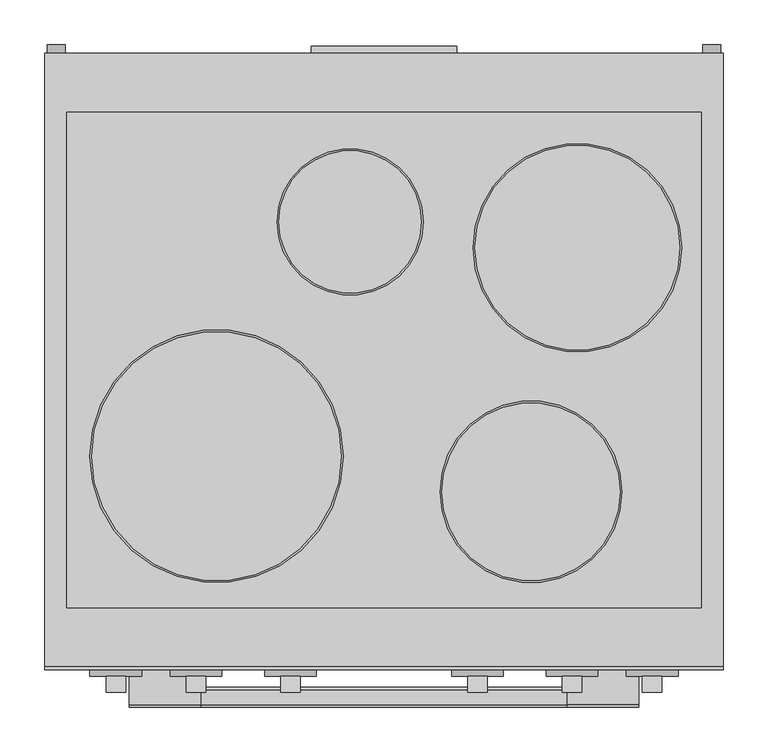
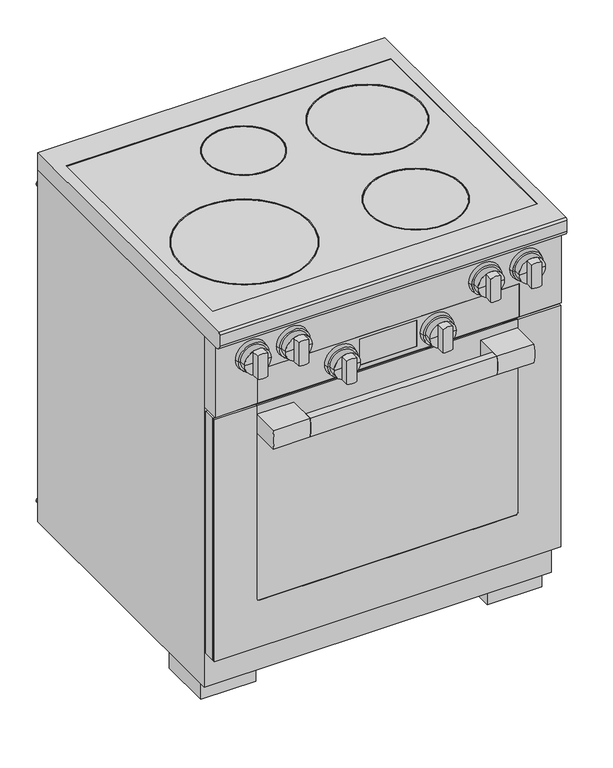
"""IFC4 building model written with IfcOpenShell, lengths in millimetres: proxy geometry, 12298850_USA_HR1422-3_EDST-CLST : 25142281_USA_12298850_HR1422-3_EDST-CLST."""

from ifc_helpers import new_model, si_unit, point, frame, frame_2d, origin, origin_with_axes, place, context, project, spatial, polyline, circle_curve, trimmed, segment, composite_curve, outline, extrude, faceted_brep, source, transform, mapped, element, save
from ifc_brep_helpers import plane_surface, cylinder_surface, revolved_surface, advanced_brep


def specialty_equipment_8ac4c8d8(model_context):
    return source(origin(), model_context, "Body", "SolidModel", [
        extrude(outline(composite_curve([segment(polyline([(-714.0, 624.0), (-731.0, 624.0)]), True, "CONTINUOUS"), segment(trimmed(circle_curve(frame_2d((-655.4583333, 645.5)), 78.5416667), [point((-731.0, 624.0))], [point((-731.0, 667.0))], False, "CARTESIAN"), True, "CONTINUOUS"), segment(polyline([(-731.0, 667.0), (-714.0, 667.0)]), True, "CONTINUOUS"), segment(trimmed(circle_curve(frame_2d((-789.5416667, 645.5)), 78.5416667), [point((-714.0, 667.0))], [point((-714.0, 624.0))], False, "CARTESIAN"), True, "CONTINUOUS")], self_intersect=False)), frame((-205.0, 0.0, 0.0), z_axis=(1.0, 0.0, 0.0), x_axis=(0.0, 1.0, 0.0)), (0.0, 0.0, 1.0), 410.0),
        extrude(outline(composite_curve([segment(polyline([(-731.0, 667.0), (-668.7, 667.0), (-668.7, 624.0), (-731.0, 624.0)]), True, "CONTINUOUS"), segment(trimmed(circle_curve(frame_2d((-655.4583333, 645.5)), 78.5416667), [point((-731.0, 624.0))], [point((-731.0, 667.0))], False, "CARTESIAN"), True, "CONTINUOUS")], self_intersect=False)), frame((205.0, 0.0, 0.0), z_axis=(1.0, 0.0, 0.0), x_axis=(0.0, 1.0, 0.0)), (0.0, 0.0, 1.0), 81.0),
        extrude(outline(composite_curve([segment(polyline([(-668.7, 667.0), (-668.7, 624.0), (-731.0, 624.0)]), True, "CONTINUOUS"), segment(trimmed(circle_curve(frame_2d((-655.4583333, 645.5)), 78.5416667), [point((-731.0, 624.0))], [point((-731.0, 667.0))], False, "CARTESIAN"), True, "CONTINUOUS"), segment(polyline([(-731.0, 667.0), (-668.7, 667.0)]), True, "CONTINUOUS")], self_intersect=False)), frame((-286.0, 0.0, 0.0), z_axis=(1.0, 0.0, 0.0), x_axis=(0.0, 1.0, 0.0)), (0.0, 0.0, 1.0), 81.0),
        extrude(outline(polyline([(-380.0, -638.0), (380.0, -638.0), (380.0, -664.7), (-380.0, -664.7), (-380.0, -638.0)])), frame((0.0, 0.0, 127.0), z_axis=(0.0, 0.0, 1.0), x_axis=(1.0, 0.0, 0.0)), (0.0, 0.0, 1.0), 561.0),
        extrude(outline(polyline([(-379.0, -664.7), (379.0, -664.7), (379.0, -668.7), (-379.0, -668.7), (-379.0, -664.7)])), frame((0.0, 0.0, 128.0), z_axis=(0.0, 0.0, 1.0), x_axis=(1.0, 0.0, 0.0)), (0.0, 0.0, 1.0), 559.0),
        advanced_brep(
        [(287.0, -664.7, 688.0), (380.0, -664.7, 688.0), (380.0, -664.7, 127.0), (-380.0, -664.7, 127.0), (-380.0, -664.7, 688.0), (-287.0, -664.7, 688.0), (-287.0, -664.7, 687.0), (-379.0, -664.7, 687.0), (-379.0, -664.7, 128.0), (379.0, -664.7, 128.0), (379.0, -664.7, 687.0), (287.0, -664.7, 687.0), (-287.0, -670.0, 688.0), (-380.0, -670.0, 688.0), (-380.0, -670.0, 127.0), (380.0, -670.0, 127.0), (380.0, -670.0, 688.0), (287.0, -670.0, 688.0), (287.0, -670.0, 241.0), (281.0, -670.0, 235.0), (-281.0, -670.0, 235.0), (-287.0, -670.0, 241.0), (-287.0, -668.7, 241.0), (-287.0, -668.7, 687.0), (281.0, -668.7, 235.0), (-281.0, -668.7, 235.0), (287.0, -668.7, 687.0), (287.0, -668.7, 241.0), (379.0, -668.7, 687.0), (379.0, -668.7, 128.0), (-379.0, -668.7, 128.0), (-379.0, -668.7, 687.0)],
        [
            (0, 1),
            (1, 2),
            (2, 3),
            (3, 4),
            (4, 5),
            (5, 6),
            (6, 7),
            (7, 8),
            (8, 9),
            (9, 10),
            (10, 11),
            (11, 0),
            (12, 13),
            (13, 14),
            (14, 15),
            (15, 16),
            (16, 17),
            (17, 18),
            (18, 19, circle_curve(frame((281.0, -670.0, 241.0), z_axis=(0.0, 1.0, 0.0), x_axis=(-1.0, 0.0, 0.0)), 6.0)),
            (19, 20),
            (20, 21, circle_curve(frame((-281.0, -670.0, 241.0), z_axis=(0.0, 1.0, 0.0), x_axis=(-1.0, 0.0, 0.0)), 6.0)),
            (21, 12),
            (21, 22),
            (22, 23),
            (23, 6),
            (5, 12),
            (19, 24),
            (24, 25),
            (25, 20),
            (17, 0),
            (11, 26),
            (26, 27),
            (27, 18),
            (16, 1),
            (15, 2),
            (14, 3),
            (13, 4),
            (25, 22, circle_curve(frame((-281.0, -668.7, 241.0), z_axis=(0.0, 1.0, 0.0), x_axis=(-1.0, 0.0, 0.0)), 6.0)),
            (27, 24, circle_curve(frame((281.0, -668.7, 241.0), z_axis=(0.0, 1.0, 0.0), x_axis=(-1.0, 0.0, 0.0)), 6.0)),
            (28, 29),
            (29, 30),
            (30, 31),
            (31, 23),
            (26, 28),
            (28, 10),
            (9, 29),
            (8, 30),
            (7, 31),
        ],
        [
            plane_surface(frame((-287.0, -664.7, 241.0), z_axis=(0.0, 1.0, 0.0), x_axis=(0.0, 0.0, -1.0))),
            plane_surface(frame((-287.0, -670.0, 241.0), z_axis=(0.0, -1.0, 0.0), x_axis=(0.0, 0.0, 1.0))),
            plane_surface(frame((-287.0, -664.7, 688.0), z_axis=(1.0, 0.0, 0.0), x_axis=(0.0, -1.0, 0.0))),
            plane_surface(frame((-281.0, -664.7, 235.0), z_axis=(0.0, 0.0, 1.0), x_axis=(0.0, -1.0, 0.0))),
            plane_surface(frame((287.0, -664.7, 241.0), z_axis=(-1.0, 0.0, 0.0), x_axis=(0.0, -1.0, 0.0))),
            plane_surface(frame((287.0, -664.7, 688.0), z_axis=(0.0, 0.0, 1.0), x_axis=(0.0, -1.0, 0.0))),
            plane_surface(frame((380.0, -664.7, 688.0), z_axis=(1.0, 0.0, 0.0), x_axis=(0.0, -1.0, 0.0))),
            plane_surface(frame((380.0, -664.7, 127.0), z_axis=(0.0, 0.0, -1.0), x_axis=(0.0, -1.0, 0.0))),
            plane_surface(frame((-380.0, -664.7, 127.0), z_axis=(-1.0, 0.0, 0.0), x_axis=(0.0, -1.0, 0.0))),
            plane_surface(frame((-380.0, -664.7, 688.0), z_axis=(0.0, 0.0, 1.0), x_axis=(0.0, -1.0, 0.0))),
            revolved_surface(polyline([(-287.0, -670.0, 241.0), (-287.0, -668.7, 241.0)]), (-281.0, -670.0, 241.0), (0.0, -1.0, 0.0)),
            revolved_surface(polyline([(275.0, -670.0, 241.0), (275.0, -668.7, 241.0)]), (281.0, -670.0, 241.0), (0.0, -1.0, 0.0)),
            plane_surface(frame((379.0, -668.7, 687.0), z_axis=(0.0, 1.0, 0.0), x_axis=(0.0, 0.0, 1.0))),
            plane_surface(frame((379.0, -664.7, 687.0), z_axis=(-1.0, 0.0, 0.0), x_axis=(0.0, -1.0, 0.0))),
            plane_surface(frame((379.0, -664.7, 128.0), z_axis=(0.0, 0.0, 1.0), x_axis=(0.0, -1.0, 0.0))),
            plane_surface(frame((-379.0, -664.7, 128.0), z_axis=(1.0, 0.0, 0.0), x_axis=(0.0, -1.0, 0.0))),
            plane_surface(frame((-379.0, -664.7, 687.0), z_axis=(0.0, 0.0, -1.0), x_axis=(0.0, -1.0, 0.0))),
        ],
        [
            (0, [[1, 2, 3, 4, 5, 6, 7, 8, 9, 10, 11, 12]]),
            (1, [[13, 14, 15, 16, 17, 18, 19, 20, 21, 22]]),
            (2, [[-22, 23, 24, 25, -6, 26]]),
            (3, [[-20, 27, 28, 29]]),
            (4, [[-18, 30, -12, 31, 32, 33]]),
            (5, [[-1, -30, -17, 34]]),
            (6, [[-2, -34, -16, 35]]),
            (7, [[-3, -35, -15, 36]]),
            (8, [[-4, -36, -14, 37]]),
            (9, [[-5, -37, -13, -26]]),
            (10, [[-21, -29, 38, -23]]),
            (11, [[-19, -33, 39, -27]]),
            (12, [[40, 41, 42, 43, -24, -38, -28, -39, -32, 44]]),
            (13, [[-40, 45, -10, 46]]),
            (14, [[-41, -46, -9, 47]]),
            (15, [[-42, -47, -8, 48]]),
            (16, [[-45, -44, -31, -11]]),
            (16, [[-48, -7, -25, -43]]),
        ],
    ),
        extrude(outline(polyline([(-351.0, -617.0), (351.0, -617.0), (351.0, -638.0), (-351.0, -638.0), (-351.0, -617.0)])), frame((0.0, 0.0, 133.0), z_axis=(0.0, 0.0, 1.0), x_axis=(1.0, 0.0, 0.0)), (0.0, 0.0, 1.0), 550.0),
        extrude(outline(polyline([(356.0, -66.0), (356.0, -622.0), (-356.0, -622.0), (-356.0, -66.0), (356.0, -66.0)])), frame((0.0, 0.0, 896.4), z_axis=(0.0, 0.0, 1.0), x_axis=(1.0, 0.0, 0.0)), (0.0, 0.0, 1.0), 4.0),
        advanced_brep(
        [(381.0, 0.0, 902.0), (381.0, -688.0, 902.0), (381.0, -692.0, 898.0), (381.0, -692.0, 872.0), (381.0, -682.0, 862.0), (381.0, 0.0, 862.0), (-381.0, 0.0, 902.0), (-381.0, 0.0, 862.0), (-381.0, -682.0, 862.0), (-381.0, -692.0, 872.0), (-381.0, -692.0, 898.0), (-381.0, -688.0, 902.0), (-356.0, -66.0, 902.0), (356.0, -66.0, 902.0), (356.0, -622.0, 902.0), (-356.0, -622.0, 902.0), (356.0, -66.0, 896.4), (-356.0, -66.0, 896.4), (-356.0, -622.0, 896.4), (356.0, -622.0, 896.4)],
        [
            (0, 1),
            (1, 2, circle_curve(frame((381.0, -688.0, 898.0), z_axis=(1.0, 0.0, 0.0), x_axis=(0.0, 0.0, 1.0)), 4.0)),
            (2, 3),
            (3, 4, circle_curve(frame((381.0, -682.0, 872.0), z_axis=(1.0, 0.0, 0.0), x_axis=(0.0, 0.0, 1.0)), 10.0)),
            (4, 5),
            (5, 0),
            (6, 7),
            (7, 8),
            (8, 9, circle_curve(frame((-381.0, -682.0, 872.0), z_axis=(-1.0, 0.0, 0.0), x_axis=(0.0, 0.0, 1.0)), 10.0)),
            (9, 10),
            (10, 11, circle_curve(frame((-381.0, -688.0, 898.0), z_axis=(-1.0, 0.0, 0.0), x_axis=(0.0, 0.0, 1.0)), 4.0)),
            (11, 6),
            (0, 6),
            (11, 1),
            (12, 13),
            (13, 14),
            (14, 15),
            (15, 12),
            (10, 2),
            (9, 3),
            (8, 4),
            (7, 5),
            (16, 17),
            (17, 18),
            (18, 19),
            (19, 16),
            (16, 13),
            (12, 17),
            (15, 18),
            (14, 19),
        ],
        [
            plane_surface(frame((381.0, -688.0, 902.0), z_axis=(1.0, 0.0, 0.0), x_axis=(0.0, -1.0, 0.0))),
            plane_surface(frame((-381.0, -688.0, 902.0), z_axis=(-1.0, 0.0, 0.0), x_axis=(0.0, 1.0, 0.0))),
            plane_surface(frame((381.0, 0.0, 902.0), z_axis=(0.0, 0.0, 1.0), x_axis=(-1.0, 0.0, 0.0))),
            cylinder_surface(frame((-381.0, -688.0, 898.0), z_axis=(1.0, 0.0, 0.0), x_axis=(0.0, 0.0, 1.0)), 4.0),
            plane_surface(frame((381.0, -692.0, 898.0), z_axis=(0.0, -1.0, 0.0), x_axis=(-1.0, 0.0, 0.0))),
            cylinder_surface(frame((-381.0, -682.0, 872.0), z_axis=(1.0, 0.0, 0.0), x_axis=(0.0, 0.0, 1.0)), 10.0),
            plane_surface(frame((381.0, -682.0, 862.0), z_axis=(0.0, 0.0, -1.0), x_axis=(-1.0, 0.0, 0.0))),
            plane_surface(frame((381.0, 0.0, 862.0), z_axis=(0.0, 1.0, 0.0), x_axis=(-1.0, 0.0, 0.0))),
            plane_surface(frame((-356.0, -66.0, 896.4), z_axis=(0.0, 0.0, 1.0), x_axis=(1.0, 0.0, 0.0))),
            plane_surface(frame((356.0, -66.0, 902.0), z_axis=(0.0, -1.0, 0.0), x_axis=(0.0, 0.0, -1.0))),
            plane_surface(frame((-356.0, -66.0, 902.0), z_axis=(1.0, 0.0, 0.0), x_axis=(0.0, 0.0, -1.0))),
            plane_surface(frame((-356.0, -622.0, 902.0), z_axis=(0.0, 1.0, 0.0), x_axis=(0.0, 0.0, -1.0))),
            plane_surface(frame((356.0, -622.0, 902.0), z_axis=(-1.0, 0.0, 0.0), x_axis=(0.0, 0.0, -1.0))),
        ],
        [
            (0, [[1, 2, 3, 4, 5, 6]]),
            (1, [[7, 8, 9, 10, 11, 12]]),
            (2, [[-1, 13, -12, 14], [15, 16, 17, 18]]),
            (3, [[-2, -14, -11, 19]]),
            (4, [[-3, -19, -10, 20]]),
            (5, [[-4, -20, -9, 21]]),
            (6, [[-5, -21, -8, 22]]),
            (7, [[-6, -22, -7, -13]]),
            (8, [[23, 24, 25, 26]]),
            (9, [[-23, 27, -15, 28]]),
            (10, [[-24, -28, -18, 29]]),
            (11, [[-25, -29, -17, 30]]),
            (12, [[-26, -30, -16, -27]]),
        ],
    ),
        extrude(outline(composite_curve([segment(trimmed(circle_curve(frame_2d((-38.0, -189.0)), 82.0), [point((44.0, -189.0))], [point((-120.0, -189.0))], False, "CARTESIAN"), True, "CONTINUOUS"), segment(trimmed(circle_curve(frame_2d((-38.0, -189.0)), 82.0), [point((-120.0, -189.0))], [point((44.0, -189.0))], False, "CARTESIAN"), True, "CONTINUOUS")], self_intersect=False), holes=[composite_curve([segment(trimmed(circle_curve(frame_2d((-38.0, -189.0)), 80.0), [point((42.0, -189.0))], [point((-118.0, -189.0))], True, "CARTESIAN"), True, "CONTINUOUS"), segment(trimmed(circle_curve(frame_2d((-38.0, -189.0)), 80.0), [point((-118.0, -189.0))], [point((42.0, -189.0))], True, "CARTESIAN"), True, "CONTINUOUS")], self_intersect=False)]), frame((0.0, 0.0, 900.4), z_axis=(0.0, 0.0, 1.0), x_axis=(1.0, 0.0, 0.0)), (0.0, 0.0, 1.0), 1.0),
        extrude(outline(composite_curve([segment(trimmed(circle_curve(frame_2d((217.0, -218.0)), 117.0), [point((334.0, -218.0))], [point((100.0, -218.0))], False, "CARTESIAN"), True, "CONTINUOUS"), segment(trimmed(circle_curve(frame_2d((217.0, -218.0)), 117.0), [point((100.0, -218.0))], [point((334.0, -218.0))], False, "CARTESIAN"), True, "CONTINUOUS")], self_intersect=False), holes=[composite_curve([segment(trimmed(circle_curve(frame_2d((217.0, -218.0)), 115.0), [point((332.0, -218.0))], [point((102.0, -218.0))], True, "CARTESIAN"), True, "CONTINUOUS"), segment(trimmed(circle_curve(frame_2d((217.0, -218.0)), 115.0), [point((102.0, -218.0))], [point((332.0, -218.0))], True, "CARTESIAN"), True, "CONTINUOUS")], self_intersect=False)]), frame((0.0, 0.0, 900.4), z_axis=(0.0, 0.0, 1.0), x_axis=(1.0, 0.0, 0.0)), (0.0, 0.0, 1.0), 1.0),
        extrude(outline(composite_curve([segment(trimmed(circle_curve(frame_2d((165.0, -492.0)), 102.0), [point((267.0, -492.0))], [point((63.0, -492.0))], False, "CARTESIAN"), True, "CONTINUOUS"), segment(trimmed(circle_curve(frame_2d((165.0, -492.0)), 102.0), [point((63.0, -492.0))], [point((267.0, -492.0))], False, "CARTESIAN"), True, "CONTINUOUS")], self_intersect=False), holes=[composite_curve([segment(trimmed(circle_curve(frame_2d((165.0, -492.0)), 100.0), [point((265.0, -492.0))], [point((65.0, -492.0))], True, "CARTESIAN"), True, "CONTINUOUS"), segment(trimmed(circle_curve(frame_2d((165.0, -492.0)), 100.0), [point((65.0, -492.0))], [point((265.0, -492.0))], True, "CARTESIAN"), True, "CONTINUOUS")], self_intersect=False)]), frame((0.0, 0.0, 900.4), z_axis=(0.0, 0.0, 1.0), x_axis=(1.0, 0.0, 0.0)), (0.0, 0.0, 1.0), 1.0),
        extrude(outline(composite_curve([segment(trimmed(circle_curve(frame_2d((-188.0, -452.0)), 142.0), [point((-46.0, -452.0))], [point((-330.0, -452.0))], False, "CARTESIAN"), True, "CONTINUOUS"), segment(trimmed(circle_curve(frame_2d((-188.0, -452.0)), 142.0), [point((-330.0, -452.0))], [point((-46.0, -452.0))], False, "CARTESIAN"), True, "CONTINUOUS")], self_intersect=False), holes=[composite_curve([segment(trimmed(circle_curve(frame_2d((-188.0, -452.0)), 140.0), [point((-48.0, -452.0))], [point((-328.0, -452.0))], True, "CARTESIAN"), True, "CONTINUOUS"), segment(trimmed(circle_curve(frame_2d((-188.0, -452.0)), 140.0), [point((-328.0, -452.0))], [point((-48.0, -452.0))], True, "CARTESIAN"), True, "CONTINUOUS")], self_intersect=False)]), frame((0.0, 0.0, 900.4), z_axis=(0.0, 0.0, 1.0), x_axis=(1.0, 0.0, 0.0)), (0.0, 0.0, 1.0), 1.0),
        extrude(outline(composite_curve([segment(polyline([(759.8328157, 94.0), (706.1671843, 94.0)]), True, "CONTINUOUS"), segment(trimmed(circle_curve(frame_2d((733.0, 105.0)), 29.0), [point((706.1671843, 94.0))], [point((706.1671843, 116.0))], False, "CARTESIAN"), True, "CONTINUOUS"), segment(polyline([(706.1671843, 116.0), (759.8328157, 116.0)]), True, "CONTINUOUS"), segment(trimmed(circle_curve(frame_2d((733.0, 105.0)), 29.0), [point((759.8328157, 116.0))], [point((759.8328157, 94.0))], False, "CARTESIAN"), True, "CONTINUOUS")], self_intersect=False)), frame((0.0, -717.0, 0.0), z_axis=(0.0, 1.0, 0.0), x_axis=(0.0, 0.0, 1.0)), (0.0, 0.0, 1.0), 18.0),
        extrude(outline(composite_curve([segment(polyline([(759.8328157, -116.0), (706.1671843, -116.0)]), True, "CONTINUOUS"), segment(trimmed(circle_curve(frame_2d((733.0, -105.0)), 29.0), [point((706.1671843, -116.0))], [point((706.1671843, -94.0))], False, "CARTESIAN"), True, "CONTINUOUS"), segment(polyline([(706.1671843, -94.0), (759.8328157, -94.0)]), True, "CONTINUOUS"), segment(trimmed(circle_curve(frame_2d((733.0, -105.0)), 29.0), [point((759.8328157, -94.0))], [point((759.8328157, -116.0))], False, "CARTESIAN"), True, "CONTINUOUS")], self_intersect=False)), frame((0.0, -717.0, 0.0), z_axis=(0.0, 1.0, 0.0), x_axis=(0.0, 0.0, 1.0)), (0.0, 0.0, 1.0), 18.0),
        advanced_brep(
        [(-105.0, -683.0, 733.0), (-76.0, -683.0, 733.0), (-134.0, -683.0, 733.0), (-134.0, -699.0, 733.0), (-76.0, -699.0, 733.0), (-105.0, -699.0, 733.0)],
        [
            (0, 1),
            (1, 2, circle_curve(frame((-105.0, -683.0, 733.0), z_axis=(0.0, 1.0, 0.0), x_axis=(1.0, 0.0, 0.0)), 29.0)),
            (2, 0),
            (2, 1, circle_curve(frame((-105.0, -683.0, 733.0), z_axis=(0.0, 1.0, 0.0), x_axis=(1.0, 0.0, 0.0)), 29.0)),
            (3, 4, circle_curve(frame((-105.0, -699.0, 733.0), z_axis=(0.0, -1.0, 0.0), x_axis=(1.0, 0.0, 0.0)), 29.0)),
            (4, 5),
            (5, 3),
            (4, 3, circle_curve(frame((-105.0, -699.0, 733.0), z_axis=(0.0, -1.0, 0.0), x_axis=(1.0, 0.0, 0.0)), 29.0)),
            (1, 4),
            (3, 2),
        ],
        [
            plane_surface(frame((-105.0, -683.0, 733.0), z_axis=(0.0, 1.0, 0.0), x_axis=(1.0, 0.0, 0.0))),
            plane_surface(frame((-105.0, -699.0, 733.0), z_axis=(0.0, -1.0, 0.0), x_axis=(1.0, 0.0, 0.0))),
            cylinder_surface(frame((-105.0, 751.3738435, 733.0), z_axis=(0.0, 1.0, 0.0), x_axis=(1.0, 0.0, 0.0)), 29.0),
        ],
        [
            (0, [[1, 2, 3]]),
            (0, [[-3, 4, -1]]),
            (1, [[5, 6, 7]]),
            (1, [[8, -7, -6]]),
            (2, [[-2, 9, -5, 10]]),
            (2, [[-4, -10, -8, -9]]),
        ],
    ),
        advanced_brep(
        [(105.0, -683.0, 733.0), (134.0, -683.0, 733.0), (76.0, -683.0, 733.0), (76.0, -699.0, 733.0), (134.0, -699.0, 733.0), (105.0, -699.0, 733.0)],
        [
            (0, 1),
            (1, 2, circle_curve(frame((105.0, -683.0, 733.0), z_axis=(0.0, 1.0, 0.0), x_axis=(1.0, 0.0, 0.0)), 29.0)),
            (2, 0),
            (2, 1, circle_curve(frame((105.0, -683.0, 733.0), z_axis=(0.0, 1.0, 0.0), x_axis=(1.0, 0.0, 0.0)), 29.0)),
            (3, 4, circle_curve(frame((105.0, -699.0, 733.0), z_axis=(0.0, -1.0, 0.0), x_axis=(1.0, 0.0, 0.0)), 29.0)),
            (4, 5),
            (5, 3),
            (4, 3, circle_curve(frame((105.0, -699.0, 733.0), z_axis=(0.0, -1.0, 0.0), x_axis=(1.0, 0.0, 0.0)), 29.0)),
            (1, 4),
            (3, 2),
        ],
        [
            plane_surface(frame((105.0, -683.0, 733.0), z_axis=(0.0, 1.0, 0.0), x_axis=(1.0, 0.0, 0.0))),
            plane_surface(frame((105.0, -699.0, 733.0), z_axis=(0.0, -1.0, 0.0), x_axis=(1.0, 0.0, 0.0))),
            cylinder_surface(frame((105.0, 751.3738435, 733.0), z_axis=(0.0, 1.0, 0.0), x_axis=(1.0, 0.0, 0.0)), 29.0),
        ],
        [
            (0, [[1, 2, 3]]),
            (0, [[-3, 4, -1]]),
            (1, [[5, 6, 7]]),
            (1, [[8, -7, -6]]),
            (2, [[-2, 9, -5, 10]]),
            (2, [[-4, -10, -8, -9]]),
        ],
    ),
        extrude(outline(composite_curve([segment(polyline([(839.8328157, -312.0), (786.1671843, -312.0)]), True, "CONTINUOUS"), segment(trimmed(circle_curve(frame_2d((813.0, -301.0)), 29.0), [point((786.1671843, -312.0))], [point((786.1671843, -290.0))], False, "CARTESIAN"), True, "CONTINUOUS"), segment(polyline([(786.1671843, -290.0), (839.8328157, -290.0)]), True, "CONTINUOUS"), segment(trimmed(circle_curve(frame_2d((813.0, -301.0)), 29.0), [point((839.8328157, -290.0))], [point((839.8328157, -312.0))], False, "CARTESIAN"), True, "CONTINUOUS")], self_intersect=False)), frame((0.0, -717.0, 0.0), z_axis=(0.0, 1.0, 0.0), x_axis=(0.0, 0.0, 1.0)), (0.0, 0.0, 1.0), 18.0),
        extrude(outline(composite_curve([segment(polyline([(839.8328157, -222.0), (786.1671843, -222.0)]), True, "CONTINUOUS"), segment(trimmed(circle_curve(frame_2d((813.0, -211.0)), 29.0), [point((786.1671843, -222.0))], [point((786.1671843, -200.0))], False, "CARTESIAN"), True, "CONTINUOUS"), segment(polyline([(786.1671843, -200.0), (839.8328157, -200.0)]), True, "CONTINUOUS"), segment(trimmed(circle_curve(frame_2d((813.0, -211.0)), 29.0), [point((839.8328157, -200.0))], [point((839.8328157, -222.0))], False, "CARTESIAN"), True, "CONTINUOUS")], self_intersect=False)), frame((0.0, -717.0, 0.0), z_axis=(0.0, 1.0, 0.0), x_axis=(0.0, 0.0, 1.0)), (0.0, 0.0, 1.0), 18.0),
        extrude(outline(composite_curve([segment(trimmed(circle_curve(frame_2d((813.0, 211.0)), 29.0), [point((786.1671843, 200.0))], [point((786.1671843, 222.0))], False, "CARTESIAN"), True, "CONTINUOUS"), segment(polyline([(786.1671843, 222.0), (839.8328157, 222.0)]), True, "CONTINUOUS"), segment(trimmed(circle_curve(frame_2d((813.0, 211.0)), 29.0), [point((839.8328157, 222.0))], [point((839.8328157, 200.0))], False, "CARTESIAN"), True, "CONTINUOUS"), segment(polyline([(839.8328157, 200.0), (786.1671843, 200.0)]), True, "CONTINUOUS")], self_intersect=False)), frame((0.0, -717.0, 0.0), z_axis=(0.0, 1.0, 0.0), x_axis=(0.0, 0.0, 1.0)), (0.0, 0.0, 1.0), 18.0),
        advanced_brep(
        [(-301.0, -683.0, 813.0), (-272.0, -683.0, 813.0), (-330.0, -683.0, 813.0), (-330.0, -699.0, 813.0), (-272.0, -699.0, 813.0), (-301.0, -699.0, 813.0)],
        [
            (0, 1),
            (1, 2, circle_curve(frame((-301.0, -683.0, 813.0), z_axis=(0.0, 1.0, 0.0), x_axis=(1.0, 0.0, 0.0)), 29.0)),
            (2, 0),
            (2, 1, circle_curve(frame((-301.0, -683.0, 813.0), z_axis=(0.0, 1.0, 0.0), x_axis=(1.0, 0.0, 0.0)), 29.0)),
            (3, 4, circle_curve(frame((-301.0, -699.0, 813.0), z_axis=(0.0, -1.0, 0.0), x_axis=(1.0, 0.0, 0.0)), 29.0)),
            (4, 5),
            (5, 3),
            (4, 3, circle_curve(frame((-301.0, -699.0, 813.0), z_axis=(0.0, -1.0, 0.0), x_axis=(1.0, 0.0, 0.0)), 29.0)),
            (1, 4),
            (3, 2),
        ],
        [
            plane_surface(frame((-301.0, -683.0, 813.0), z_axis=(0.0, 1.0, 0.0), x_axis=(1.0, 0.0, 0.0))),
            plane_surface(frame((-301.0, -699.0, 813.0), z_axis=(0.0, -1.0, 0.0), x_axis=(1.0, 0.0, 0.0))),
            cylinder_surface(frame((-301.0, 751.3738435, 813.0), z_axis=(0.0, 1.0, 0.0), x_axis=(1.0, 0.0, 0.0)), 29.0),
        ],
        [
            (0, [[1, 2, 3]]),
            (0, [[-3, 4, -1]]),
            (1, [[5, 6, 7]]),
            (1, [[8, -7, -6]]),
            (2, [[-2, 9, -5, 10]]),
            (2, [[-4, -10, -8, -9]]),
        ],
    ),
        advanced_brep(
        [(-211.0, -683.0, 813.0), (-182.0, -683.0, 813.0), (-240.0, -683.0, 813.0), (-240.0, -699.0, 813.0), (-182.0, -699.0, 813.0), (-211.0, -699.0, 813.0)],
        [
            (0, 1),
            (1, 2, circle_curve(frame((-211.0, -683.0, 813.0), z_axis=(0.0, 1.0, 0.0), x_axis=(1.0, 0.0, 0.0)), 29.0)),
            (2, 0),
            (2, 1, circle_curve(frame((-211.0, -683.0, 813.0), z_axis=(0.0, 1.0, 0.0), x_axis=(1.0, 0.0, 0.0)), 29.0)),
            (3, 4, circle_curve(frame((-211.0, -699.0, 813.0), z_axis=(0.0, -1.0, 0.0), x_axis=(1.0, 0.0, 0.0)), 29.0)),
            (4, 5),
            (5, 3),
            (4, 3, circle_curve(frame((-211.0, -699.0, 813.0), z_axis=(0.0, -1.0, 0.0), x_axis=(1.0, 0.0, 0.0)), 29.0)),
            (1, 4),
            (3, 2),
        ],
        [
            plane_surface(frame((-211.0, -683.0, 813.0), z_axis=(0.0, 1.0, 0.0), x_axis=(1.0, 0.0, 0.0))),
            plane_surface(frame((-211.0, -699.0, 813.0), z_axis=(0.0, -1.0, 0.0), x_axis=(1.0, 0.0, 0.0))),
            cylinder_surface(frame((-211.0, 751.3738435, 813.0), z_axis=(0.0, 1.0, 0.0), x_axis=(1.0, 0.0, 0.0)), 29.0),
        ],
        [
            (0, [[1, 2, 3]]),
            (0, [[-3, 4, -1]]),
            (1, [[5, 6, 7]]),
            (1, [[8, -7, -6]]),
            (2, [[-2, 9, -5, 10]]),
            (2, [[-4, -10, -8, -9]]),
        ],
    ),
        advanced_brep(
        [(211.0, -683.0, 813.0), (240.0, -683.0, 813.0), (182.0, -683.0, 813.0), (182.0, -699.0, 813.0), (240.0, -699.0, 813.0), (211.0, -699.0, 813.0)],
        [
            (0, 1),
            (1, 2, circle_curve(frame((211.0, -683.0, 813.0), z_axis=(0.0, 1.0, 0.0), x_axis=(1.0, 0.0, 0.0)), 29.0)),
            (2, 0),
            (2, 1, circle_curve(frame((211.0, -683.0, 813.0), z_axis=(0.0, 1.0, 0.0), x_axis=(1.0, 0.0, 0.0)), 29.0)),
            (3, 4, circle_curve(frame((211.0, -699.0, 813.0), z_axis=(0.0, -1.0, 0.0), x_axis=(1.0, 0.0, 0.0)), 29.0)),
            (4, 5),
            (5, 3),
            (4, 3, circle_curve(frame((211.0, -699.0, 813.0), z_axis=(0.0, -1.0, 0.0), x_axis=(1.0, 0.0, 0.0)), 29.0)),
            (1, 4),
            (3, 2),
        ],
        [
            plane_surface(frame((211.0, -683.0, 813.0), z_axis=(0.0, 1.0, 0.0), x_axis=(1.0, 0.0, 0.0))),
            plane_surface(frame((211.0, -699.0, 813.0), z_axis=(0.0, -1.0, 0.0), x_axis=(1.0, 0.0, 0.0))),
            cylinder_surface(frame((211.0, 751.3738435, 813.0), z_axis=(0.0, 1.0, 0.0), x_axis=(1.0, 0.0, 0.0)), 29.0),
        ],
        [
            (0, [[1, 2, 3]]),
            (0, [[-3, 4, -1]]),
            (1, [[5, 6, 7]]),
            (1, [[8, -7, -6]]),
            (2, [[-2, 9, -5, 10]]),
            (2, [[-4, -10, -8, -9]]),
        ],
    ),
        extrude(outline(composite_curve([segment(polyline([(786.1671843, 312.0), (839.8328157, 312.0)]), True, "CONTINUOUS"), segment(trimmed(circle_curve(frame_2d((813.0, 301.0)), 29.0), [point((839.8328157, 312.0))], [point((839.8328157, 290.0))], False, "CARTESIAN"), True, "CONTINUOUS"), segment(polyline([(839.8328157, 290.0), (786.1671843, 290.0)]), True, "CONTINUOUS"), segment(trimmed(circle_curve(frame_2d((813.0, 301.0)), 29.0), [point((786.1671843, 290.0))], [point((786.1671843, 312.0))], False, "CARTESIAN"), True, "CONTINUOUS")], self_intersect=False)), frame((0.0, -717.0, 0.0), z_axis=(0.0, 1.0, 0.0), x_axis=(0.0, 0.0, 1.0)), (0.0, 0.0, 1.0), 18.0),
        advanced_brep(
        [(301.0, -683.0, 813.0), (330.0, -683.0, 813.0), (272.0, -683.0, 813.0), (272.0, -699.0, 813.0), (330.0, -699.0, 813.0), (301.0, -699.0, 813.0)],
        [
            (0, 1),
            (1, 2, circle_curve(frame((301.0, -683.0, 813.0), z_axis=(0.0, 1.0, 0.0), x_axis=(1.0, 0.0, 0.0)), 29.0)),
            (2, 0),
            (2, 1, circle_curve(frame((301.0, -683.0, 813.0), z_axis=(0.0, 1.0, 0.0), x_axis=(1.0, 0.0, 0.0)), 29.0)),
            (3, 4, circle_curve(frame((301.0, -699.0, 813.0), z_axis=(0.0, -1.0, 0.0), x_axis=(1.0, 0.0, 0.0)), 29.0)),
            (4, 5),
            (5, 3),
            (4, 3, circle_curve(frame((301.0, -699.0, 813.0), z_axis=(0.0, -1.0, 0.0), x_axis=(1.0, 0.0, 0.0)), 29.0)),
            (1, 4),
            (3, 2),
        ],
        [
            plane_surface(frame((301.0, -683.0, 813.0), z_axis=(0.0, 1.0, 0.0), x_axis=(1.0, 0.0, 0.0))),
            plane_surface(frame((301.0, -699.0, 813.0), z_axis=(0.0, -1.0, 0.0), x_axis=(1.0, 0.0, 0.0))),
            cylinder_surface(frame((301.0, 751.3738435, 813.0), z_axis=(0.0, 1.0, 0.0), x_axis=(1.0, 0.0, 0.0)), 29.0),
        ],
        [
            (0, [[1, 2, 3]]),
            (0, [[-3, 4, -1]]),
            (1, [[5, 6, 7]]),
            (1, [[8, -7, -6]]),
            (2, [[-2, 9, -5, 10]]),
            (2, [[-4, -10, -8, -9]]),
        ],
    ),
        extrude(outline(polyline([(-62.5, -671.0), (62.5, -671.0), (62.5, -672.0), (-62.5, -672.0), (-62.5, -671.0)])), frame((0.0, 0.0, 705.0), z_axis=(0.0, 0.0, 1.0), x_axis=(1.0, 0.0, 0.0)), (0.0, 0.0, 1.0), 60.0),
        extrude(outline(polyline([(772.0, 287.0), (772.0, -287.0), (695.0, -287.0), (695.0, 287.0), (772.0, 287.0)]), holes=[polyline([(765.0, 62.5), (705.0, 62.5), (705.0, -62.5), (765.0, -62.5), (765.0, 62.5)])]), frame((0.0, -672.5, 0.0), z_axis=(0.0, 1.0, 0.0), x_axis=(0.0, 0.0, 1.0)), (0.0, 0.0, 1.0), 5.8),
        faceted_brep([(380.0, -673.0, 862.0), (-380.0, -673.0, 862.0), (-380.0, -673.0, 695.0), (-287.0, -673.0, 695.0), (-287.0, -673.0, 772.0), (287.0, -673.0, 772.0), (287.0, -673.0, 695.0), (380.0, -673.0, 695.0), (380.0, -633.0, 862.0), (380.0, -633.0, 695.0), (-380.0, -633.0, 695.0), (-380.0, -633.0, 862.0), (287.0, -666.7, 695.0), (-287.0, -666.7, 695.0), (287.0, -666.7, 772.0), (-287.0, -666.7, 772.0)], [[[0, 1, 2, 3, 4, 5, 6, 7]], [[8, 9, 10, 11]], [[0, 7, 9, 8]], [[10, 9, 7, 6, 12, 13, 3, 2]], [[2, 1, 11, 10]], [[1, 0, 8, 11]], [[14, 15, 13, 12]], [[14, 12, 6, 5]], [[13, 15, 4, 3]], [[15, 14, 5, 4]]]),
        advanced_brep(
        [(-138.2367302, -683.0, 733.0), (-71.7632698, -683.0, 733.0), (-105.0, -683.0, 733.0), (-140.0, -673.0, 733.0), (-70.0, -673.0, 733.0), (-105.0, -673.0, 733.0)],
        [
            (0, 1, circle_curve(frame((-105.0, -683.0, 733.0), z_axis=(0.0, -1.0, 0.0), x_axis=(1.0, 0.0, 0.0)), 33.2367302)),
            (1, 2),
            (2, 0),
            (1, 0, circle_curve(frame((-105.0, -683.0, 733.0), z_axis=(0.0, -1.0, 0.0), x_axis=(1.0, 0.0, 0.0)), 33.2367302)),
            (3, 4, circle_curve(frame((-105.0, -673.0, 733.0), z_axis=(0.0, -1.0, 0.0), x_axis=(1.0, 0.0, 0.0)), 35.0)),
            (4, 1),
            (0, 3),
            (4, 3, circle_curve(frame((-105.0, -673.0, 733.0), z_axis=(0.0, -1.0, 0.0), x_axis=(1.0, 0.0, 0.0)), 35.0)),
            (5, 4),
            (3, 5),
        ],
        [
            plane_surface(frame((-105.0, -683.0, 733.0), z_axis=(0.0, -1.0, 0.0), x_axis=(1.0, 0.0, 0.0))),
            revolved_surface(polyline([(-71.7632698, -683.0, 733.0), (-70.0, -673.0, 733.0)]), (-105.0, 751.3738435, 733.0), (0.0, 1.0, 0.0)),
            plane_surface(frame((-105.0, -673.0, 733.0), z_axis=(0.0, 1.0, 0.0), x_axis=(1.0, 0.0, 0.0))),
        ],
        [
            (0, [[1, 2, 3]]),
            (0, [[4, -3, -2]]),
            (1, [[5, 6, -1, 7]]),
            (1, [[8, -7, -4, -6]]),
            (2, [[9, -5, 10]]),
            (2, [[-10, -8, -9]]),
        ],
    ),
        advanced_brep(
        [(71.7632698, -683.0, 733.0), (138.2367302, -683.0, 733.0), (105.0, -683.0, 733.0), (70.0, -673.0, 733.0), (140.0, -673.0, 733.0), (105.0, -673.0, 733.0)],
        [
            (0, 1, circle_curve(frame((105.0, -683.0, 733.0), z_axis=(0.0, -1.0, 0.0), x_axis=(1.0, 0.0, 0.0)), 33.2367302)),
            (1, 2),
            (2, 0),
            (1, 0, circle_curve(frame((105.0, -683.0, 733.0), z_axis=(0.0, -1.0, 0.0), x_axis=(1.0, 0.0, 0.0)), 33.2367302)),
            (3, 4, circle_curve(frame((105.0, -673.0, 733.0), z_axis=(0.0, -1.0, 0.0), x_axis=(1.0, 0.0, 0.0)), 35.0)),
            (4, 1),
            (0, 3),
            (4, 3, circle_curve(frame((105.0, -673.0, 733.0), z_axis=(0.0, -1.0, 0.0), x_axis=(1.0, 0.0, 0.0)), 35.0)),
            (5, 4),
            (3, 5),
        ],
        [
            plane_surface(frame((105.0, -683.0, 733.0), z_axis=(0.0, -1.0, 0.0), x_axis=(1.0, 0.0, 0.0))),
            revolved_surface(polyline([(138.2367302, -683.0, 733.0), (140.0, -673.0, 733.0)]), (105.0, 751.3738435, 733.0), (0.0, 1.0, 0.0)),
            plane_surface(frame((105.0, -673.0, 733.0), z_axis=(0.0, 1.0, 0.0), x_axis=(1.0, 0.0, 0.0))),
        ],
        [
            (0, [[1, 2, 3]]),
            (0, [[4, -3, -2]]),
            (1, [[5, 6, -1, 7]]),
            (1, [[8, -7, -4, -6]]),
            (2, [[9, -5, 10]]),
            (2, [[-10, -8, -9]]),
        ],
    ),
        advanced_brep(
        [(-334.2367302, -683.0, 813.0), (-267.7632698, -683.0, 813.0), (-301.0, -683.0, 813.0), (-336.0, -673.0, 813.0), (-266.0, -673.0, 813.0), (-301.0, -673.0, 813.0)],
        [
            (0, 1, circle_curve(frame((-301.0, -683.0, 813.0), z_axis=(0.0, -1.0, 0.0), x_axis=(1.0, 0.0, 0.0)), 33.2367302)),
            (1, 2),
            (2, 0),
            (1, 0, circle_curve(frame((-301.0, -683.0, 813.0), z_axis=(0.0, -1.0, 0.0), x_axis=(1.0, 0.0, 0.0)), 33.2367302)),
            (3, 4, circle_curve(frame((-301.0, -673.0, 813.0), z_axis=(0.0, -1.0, 0.0), x_axis=(1.0, 0.0, 0.0)), 35.0)),
            (4, 1),
            (0, 3),
            (4, 3, circle_curve(frame((-301.0, -673.0, 813.0), z_axis=(0.0, -1.0, 0.0), x_axis=(1.0, 0.0, 0.0)), 35.0)),
            (5, 4),
            (3, 5),
        ],
        [
            plane_surface(frame((-301.0, -683.0, 813.0), z_axis=(0.0, -1.0, 0.0), x_axis=(1.0, 0.0, 0.0))),
            revolved_surface(polyline([(-267.7632698, -683.0, 813.0), (-266.0, -673.0, 813.0)]), (-301.0, 751.3738435, 813.0), (0.0, 1.0, 0.0)),
            plane_surface(frame((-301.0, -673.0, 813.0), z_axis=(0.0, 1.0, 0.0), x_axis=(1.0, 0.0, 0.0))),
        ],
        [
            (0, [[1, 2, 3]]),
            (0, [[4, -3, -2]]),
            (1, [[5, 6, -1, 7]]),
            (1, [[8, -7, -4, -6]]),
            (2, [[9, -5, 10]]),
            (2, [[-10, -8, -9]]),
        ],
    ),
        advanced_brep(
        [(-244.2367302, -683.0, 813.0), (-177.7632698, -683.0, 813.0), (-211.0, -683.0, 813.0), (-246.0, -673.0, 813.0), (-176.0, -673.0, 813.0), (-211.0, -673.0, 813.0)],
        [
            (0, 1, circle_curve(frame((-211.0, -683.0, 813.0), z_axis=(0.0, -1.0, 0.0), x_axis=(1.0, 0.0, 0.0)), 33.2367302)),
            (1, 2),
            (2, 0),
            (1, 0, circle_curve(frame((-211.0, -683.0, 813.0), z_axis=(0.0, -1.0, 0.0), x_axis=(1.0, 0.0, 0.0)), 33.2367302)),
            (3, 4, circle_curve(frame((-211.0, -673.0, 813.0), z_axis=(0.0, -1.0, 0.0), x_axis=(1.0, 0.0, 0.0)), 35.0)),
            (4, 1),
            (0, 3),
            (4, 3, circle_curve(frame((-211.0, -673.0, 813.0), z_axis=(0.0, -1.0, 0.0), x_axis=(1.0, 0.0, 0.0)), 35.0)),
            (5, 4),
            (3, 5),
        ],
        [
            plane_surface(frame((-211.0, -683.0, 813.0), z_axis=(0.0, -1.0, 0.0), x_axis=(1.0, 0.0, 0.0))),
            revolved_surface(polyline([(-177.7632698, -683.0, 813.0), (-176.0, -673.0, 813.0)]), (-211.0, 751.3738435, 813.0), (0.0, 1.0, 0.0)),
            plane_surface(frame((-211.0, -673.0, 813.0), z_axis=(0.0, 1.0, 0.0), x_axis=(1.0, 0.0, 0.0))),
        ],
        [
            (0, [[1, 2, 3]]),
            (0, [[4, -3, -2]]),
            (1, [[5, 6, -1, 7]]),
            (1, [[8, -7, -4, -6]]),
            (2, [[9, -5, 10]]),
            (2, [[-10, -8, -9]]),
        ],
    ),
        advanced_brep(
        [(177.7632698, -683.0, 813.0), (244.2367302, -683.0, 813.0), (211.0, -683.0, 813.0), (176.0, -673.0, 813.0), (246.0, -673.0, 813.0), (211.0, -673.0, 813.0)],
        [
            (0, 1, circle_curve(frame((211.0, -683.0, 813.0), z_axis=(0.0, -1.0, 0.0), x_axis=(1.0, 0.0, 0.0)), 33.2367302)),
            (1, 2),
            (2, 0),
            (1, 0, circle_curve(frame((211.0, -683.0, 813.0), z_axis=(0.0, -1.0, 0.0), x_axis=(1.0, 0.0, 0.0)), 33.2367302)),
            (3, 4, circle_curve(frame((211.0, -673.0, 813.0), z_axis=(0.0, -1.0, 0.0), x_axis=(1.0, 0.0, 0.0)), 35.0)),
            (4, 1),
            (0, 3),
            (4, 3, circle_curve(frame((211.0, -673.0, 813.0), z_axis=(0.0, -1.0, 0.0), x_axis=(1.0, 0.0, 0.0)), 35.0)),
            (5, 4),
            (3, 5),
        ],
        [
            plane_surface(frame((211.0, -683.0, 813.0), z_axis=(0.0, -1.0, 0.0), x_axis=(1.0, 0.0, 0.0))),
            revolved_surface(polyline([(244.2367302, -683.0, 813.0), (246.0, -673.0, 813.0)]), (211.0, 751.3738435, 813.0), (0.0, 1.0, 0.0)),
            plane_surface(frame((211.0, -673.0, 813.0), z_axis=(0.0, 1.0, 0.0), x_axis=(1.0, 0.0, 0.0))),
        ],
        [
            (0, [[1, 2, 3]]),
            (0, [[4, -3, -2]]),
            (1, [[5, 6, -1, 7]]),
            (1, [[8, -7, -4, -6]]),
            (2, [[9, -5, 10]]),
            (2, [[-10, -8, -9]]),
        ],
    ),
        advanced_brep(
        [(267.7632698, -683.0, 813.0), (334.2367302, -683.0, 813.0), (301.0, -683.0, 813.0), (266.0, -673.0, 813.0), (336.0, -673.0, 813.0), (301.0, -673.0, 813.0)],
        [
            (0, 1, circle_curve(frame((301.0, -683.0, 813.0), z_axis=(0.0, -1.0, 0.0), x_axis=(1.0, 0.0, 0.0)), 33.2367302)),
            (1, 2),
            (2, 0),
            (1, 0, circle_curve(frame((301.0, -683.0, 813.0), z_axis=(0.0, -1.0, 0.0), x_axis=(1.0, 0.0, 0.0)), 33.2367302)),
            (3, 4, circle_curve(frame((301.0, -673.0, 813.0), z_axis=(0.0, -1.0, 0.0), x_axis=(1.0, 0.0, 0.0)), 35.0)),
            (4, 1),
            (0, 3),
            (4, 3, circle_curve(frame((301.0, -673.0, 813.0), z_axis=(0.0, -1.0, 0.0), x_axis=(1.0, 0.0, 0.0)), 35.0)),
            (5, 4),
            (3, 5),
        ],
        [
            plane_surface(frame((301.0, -683.0, 813.0), z_axis=(0.0, -1.0, 0.0), x_axis=(1.0, 0.0, 0.0))),
            revolved_surface(polyline([(334.2367302, -683.0, 813.0), (336.0, -673.0, 813.0)]), (301.0, 751.3738435, 813.0), (0.0, 1.0, 0.0)),
            plane_surface(frame((301.0, -673.0, 813.0), z_axis=(0.0, 1.0, 0.0), x_axis=(1.0, 0.0, 0.0))),
        ],
        [
            (0, [[1, 2, 3]]),
            (0, [[4, -3, -2]]),
            (1, [[5, 6, -1, 7]]),
            (1, [[8, -7, -4, -6]]),
            (2, [[9, -5, 10]]),
            (2, [[-10, -8, -9]]),
        ],
    ),
        extrude(outline(composite_curve([segment(trimmed(circle_curve(frame_2d((822.0, 368.0)), 10.0), [point((822.0, 378.0))], [point((822.0, 358.0))], False, "CARTESIAN"), True, "CONTINUOUS"), segment(trimmed(circle_curve(frame_2d((822.0, 368.0)), 10.0), [point((822.0, 358.0))], [point((822.0, 378.0))], False, "CARTESIAN"), True, "CONTINUOUS")], self_intersect=False)), frame((0.0, 0.0, 0.0), z_axis=(0.0, 1.0, 0.0), x_axis=(0.0, 0.0, 1.0)), (0.0, 0.0, 1.0), 10.0),
        extrude(outline(composite_curve([segment(trimmed(circle_curve(frame_2d((87.0, 368.0)), 10.0), [point((87.0, 378.0))], [point((87.0, 358.0))], False, "CARTESIAN"), True, "CONTINUOUS"), segment(trimmed(circle_curve(frame_2d((87.0, 368.0)), 10.0), [point((87.0, 358.0))], [point((87.0, 378.0))], False, "CARTESIAN"), True, "CONTINUOUS")], self_intersect=False)), frame((0.0, 0.0, 0.0), z_axis=(0.0, 1.0, 0.0), x_axis=(0.0, 0.0, 1.0)), (0.0, 0.0, 1.0), 10.0),
        extrude(outline(composite_curve([segment(trimmed(circle_curve(frame_2d((822.0, -368.0)), 10.0), [point((822.0, -358.0))], [point((822.0, -378.0))], False, "CARTESIAN"), True, "CONTINUOUS"), segment(trimmed(circle_curve(frame_2d((822.0, -368.0)), 10.0), [point((822.0, -378.0))], [point((822.0, -358.0))], False, "CARTESIAN"), True, "CONTINUOUS")], self_intersect=False)), frame((0.0, 0.0, 0.0), z_axis=(0.0, 1.0, 0.0), x_axis=(0.0, 0.0, 1.0)), (0.0, 0.0, 1.0), 10.0),
        extrude(outline(composite_curve([segment(trimmed(circle_curve(frame_2d((87.0, -368.0)), 10.0), [point((87.0, -358.0))], [point((87.0, -378.0))], False, "CARTESIAN"), True, "CONTINUOUS"), segment(trimmed(circle_curve(frame_2d((87.0, -368.0)), 10.0), [point((87.0, -378.0))], [point((87.0, -358.0))], False, "CARTESIAN"), True, "CONTINUOUS")], self_intersect=False)), frame((0.0, 0.0, 0.0), z_axis=(0.0, 1.0, 0.0), x_axis=(0.0, 0.0, 1.0)), (0.0, 0.0, 1.0), 10.0),
        extrude(outline(polyline([(-81.5, 8.0), (81.5, 8.0), (81.5, 0.0), (-81.5, 0.0), (-81.5, 8.0)])), frame((0.0, 0.0, 559.0), z_axis=(0.0, 0.0, 1.0), x_axis=(1.0, 0.0, 0.0)), (0.0, 0.0, 1.0), 237.0),
        extrude(outline(composite_curve([segment(trimmed(circle_curve(frame_2d((-152.0, 39.6862697)), 39.6862697), [point((-112.6710759, 45.0))], [point((-191.3289241, 45.0))], False, "CARTESIAN"), True, "CONTINUOUS"), segment(polyline([(-191.3289241, 45.0), (-112.6710759, 45.0)]), True, "CONTINUOUS")], self_intersect=False)), frame((206.0, 0.0, 0.0), z_axis=(1.0, 0.0, 0.0), x_axis=(0.0, 1.0, 0.0)), (0.0, 0.0, 1.0), 28.0),
        faceted_brep([(356.0, -608.0, 695.0), (-356.0, -608.0, 695.0), (-356.0, -608.0, 128.0), (356.0, -608.0, 128.0), (312.0, -608.0, 608.0), (312.0, -608.0, 185.0), (-312.0, -608.0, 185.0), (-312.0, -608.0, 608.0), (356.0, -633.0, 128.0), (356.0, -633.0, 695.0), (-356.0, -633.0, 128.0), (-356.0, -633.0, 695.0), (-381.0, 0.0, 862.0), (-381.0, -633.0, 862.0), (381.0, -633.0, 862.0), (381.0, 0.0, 862.0), (356.0, 0.0, 862.0), (356.0, -23.0, 862.0), (266.0, -23.0, 862.0), (266.0, 0.0, 862.0), (65.0, 0.0, 862.0), (65.0, -23.0, 862.0), (-66.0, -23.0, 862.0), (-66.0, 0.0, 862.0), (381.0, 0.0, 45.0), (381.0, -633.0, 45.0), (-381.0, -633.0, 45.0), (-381.0, 0.0, 45.0), (-356.0, 0.0, 45.0), (-356.0, -75.0, 45.0), (356.0, -75.0, 45.0), (356.0, 0.0, 45.0), (266.0, 0.0, 132.0), (65.0, 0.0, 132.0), (-66.0, 0.0, 132.0), (-270.0, 0.0, 132.0), (-270.0, 0.0, 784.0), (-335.0, 0.0, 784.0), (-335.0, 0.0, 132.0), (-356.0, 0.0, 132.0), (312.0, -173.0, 608.0), (-312.0, -173.0, 608.0), (-312.0, -173.0, 185.0), (312.0, -173.0, 185.0), (-356.0, -75.0, 132.0), (356.0, -75.0, 132.0), (-335.0, -73.0, 132.0), (-270.0, -73.0, 132.0), (-66.0, -23.0, 132.0), (65.0, -23.0, 132.0), (266.0, -23.0, 132.0), (356.0, -23.0, 132.0), (-335.0, -73.0, 784.0), (-270.0, -73.0, 784.0)], [[[0, 1, 2, 3], [4, 5, 6, 7]], [[0, 3, 8, 9]], [[3, 2, 10, 8]], [[2, 1, 11, 10]], [[1, 0, 9, 11]], [[12, 13, 14, 15, 16, 17, 18, 19, 20, 21, 22, 23]], [[24, 25, 26, 27, 28, 29, 30, 31]], [[20, 19, 32, 33]], [[15, 24, 31, 16]], [[27, 12, 23, 34, 35, 36, 37, 38, 39, 28]], [[13, 12, 27, 26]], [[14, 13, 26, 25], [9, 8, 10, 11]], [[15, 14, 25, 24]], [[40, 41, 42, 43]], [[40, 43, 5, 4]], [[43, 42, 6, 5]], [[42, 41, 7, 6]], [[41, 40, 4, 7]], [[44, 45, 30, 29]], [[45, 44, 39, 38, 46, 47, 35, 34, 48, 49, 33, 32, 50, 51]], [[30, 45, 51, 17, 16, 31]], [[39, 44, 29, 28]], [[52, 53, 47, 46]], [[53, 52, 37, 36]], [[53, 36, 35, 47]], [[37, 52, 46, 38]], [[17, 51, 50, 18]], [[21, 49, 48, 22]], [[49, 21, 20, 33]], [[22, 48, 34, 23]], [[18, 50, 32, 19]]]),
        extrude(outline(polyline([(232.4261097, -39.2846028), (225.1553153, -39.2846028), (225.1553153, -38.0259878), (231.1324687, -38.0259878), (231.1324687, -35.0398896), (225.4699511, -35.0398896), (225.4699511, -33.7868997), (231.1324687, -33.7868997), (231.1324687, -30.484481), (225.0234692, -30.484481), (225.0234692, -29.223126), (232.4261097, -29.223126), (232.4261097, -39.2846028)])), frame((0.0, 0.0, 101.0), z_axis=(0.0, 0.0, 1.0), x_axis=(1.0, 0.0, 0.0)), (0.0, 0.0, 1.0), 1.0),
        extrude(outline(polyline([(223.0939455, -39.2781045), (216.9083542, -39.2781045), (216.9083542, -38.0259878), (221.9083542, -38.0259878), (221.9083542, -29.223126), (223.0939455, -29.223126), (223.0939455, -39.2781045)])), frame((0.0, 0.0, 101.0), z_axis=(0.0, 0.0, 1.0), x_axis=(1.0, 0.0, 0.0)), (0.0, 0.0, 1.0), 1.0),
        extrude(outline(composite_curve([segment(trimmed(circle_curve(frame_2d((225.0, -35.0)), 7.5), [point((225.0, -42.5))], [point((225.0, -27.5))], False, "CARTESIAN"), True, "CONTINUOUS"), segment(trimmed(circle_curve(frame_2d((225.0, -35.0)), 7.5), [point((225.0, -27.5))], [point((225.0, -42.5))], False, "CARTESIAN"), True, "CONTINUOUS")], self_intersect=False)), frame((0.0, 0.0, 102.0), z_axis=(0.0, 0.0, 1.0), x_axis=(1.0, 0.0, 0.0)), (0.0, 0.0, 1.0), 30.0),
        extrude(outline(composite_curve([segment(trimmed(circle_curve(frame_2d((-152.0, 39.6862697)), 39.6862697), [point((-112.6710759, 45.0))], [point((-191.3289241, 45.0))], False, "CARTESIAN"), True, "CONTINUOUS"), segment(polyline([(-191.3289241, 45.0), (-112.6710759, 45.0)]), True, "CONTINUOUS")], self_intersect=False)), frame((-234.0, 0.0, 0.0), z_axis=(1.0, 0.0, 0.0), x_axis=(0.0, 1.0, 0.0)), (0.0, 0.0, 1.0), 28.0),
        extrude(outline(polyline([(-254.0, -489.0), (-254.0, -609.0), (-374.0, -609.0), (-374.0, -489.0), (-254.0, -489.0)])), origin_with_axes(), (0.0, 0.0, 1.0), 45.0),
        extrude(outline(polyline([(374.0, -489.0), (374.0, -609.0), (254.0, -609.0), (254.0, -489.0), (374.0, -489.0)])), origin_with_axes(), (0.0, 0.0, 1.0), 45.0),
    ])


if __name__ == "__main__":
    model = new_model("IFC4")
    model_context = context("Model", 3, world=origin())
    ifc_project = project(units=[si_unit("LENGTHUNIT", "METRE", prefix="MILLI")], contexts=[model_context])
    site = spatial("IfcSite", under=ifc_project)
    building = spatial("IfcBuilding", under=site)
    placement = place(None, origin())
    specialty_equipment_shape = specialty_equipment_8ac4c8d8(model_context)
    element("IfcBuildingElementProxy", 1, Name="12298850_USA_HR1422-3_EDST-CLST : 25142281_USA_12298850_HR1422-3_EDST-CLST", ObjectType="12298850_USA_HR1422-3_EDST-CLST : 25142281_USA_12298850_HR1422-3_EDST-CLST", at=placement, inside=building, context=model_context, shape_type="MappedRepresentation", body=[
        mapped(specialty_equipment_shape, transform((0.0, 0.0, 0.0), x_axis=(1.0, 0.0, 0.0), y_axis=(0.0, 1.0, 0.0), z_axis=(0.0, 0.0, 1.0))),
    ])
    save(model, "model.ifc")
